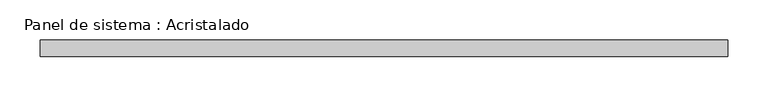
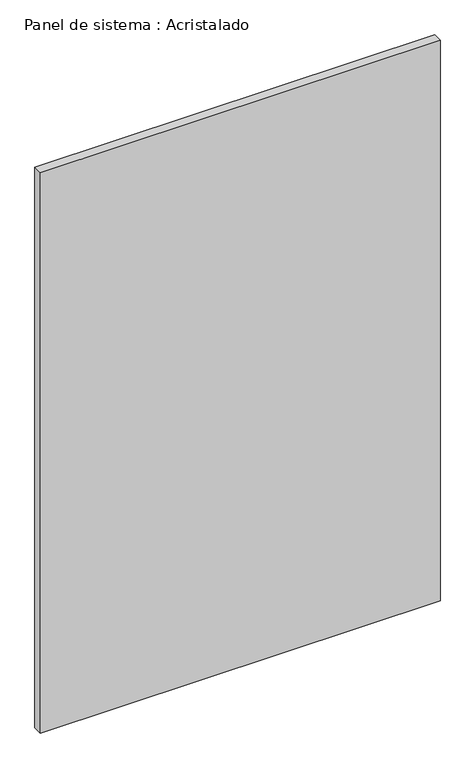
"""IFC4 building model written with IfcOpenShell, lengths in millimetres: plate geometry, Panel de sistema : Acristalado."""

from ifc_helpers import new_model, si_unit, origin, origin_with_axes, place, context, project, spatial, polyline, outline, extrude, source, transform, mapped, element, save


def panel_de_sistema_acristalado_2e35b2e4(model_context):
    return source(origin(), model_context, "Body", "SweptSolid", [
        extrude(outline(polyline([(425.0, -10.0), (-425.0, -10.0), (-425.0, 10.0), (425.0, 10.0), (425.0, -10.0)])), origin_with_axes(), (0.0, 0.0, 1.0), 1260.0),
    ])


if __name__ == "__main__":
    model = new_model("IFC4")
    model_context = context("Model", 3, world=origin())
    ifc_project = project(units=[si_unit("LENGTHUNIT", "METRE", prefix="MILLI")], contexts=[model_context])
    site = spatial("IfcSite", under=ifc_project)
    building = spatial("IfcBuilding", under=site)
    placement = place(None, origin())
    panel_de_sistema_acristalado_shape = panel_de_sistema_acristalado_2e35b2e4(model_context)
    element("IfcPlate", 1, ObjectType="Panel de sistema : Acristalado", at=placement, inside=building, context=model_context, shape_type="MappedRepresentation", body=[
        mapped(panel_de_sistema_acristalado_shape, transform((0.0, 0.0, 0.0), x_axis=(1.0, 0.0, 0.0), y_axis=(0.0, 1.0, 0.0), z_axis=(0.0, 0.0, 1.0))),
    ])
    save(model, "model.ifc")
